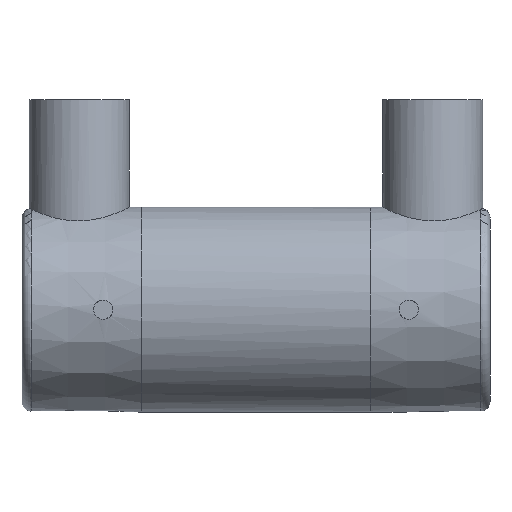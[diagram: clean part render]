
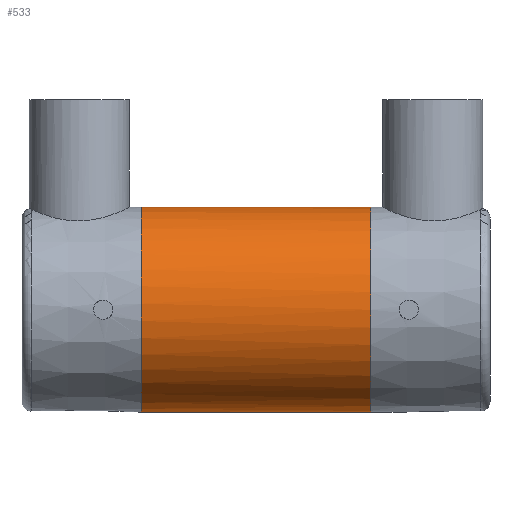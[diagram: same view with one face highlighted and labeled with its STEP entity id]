
A CAD part, front view. The second image highlights one B-rep face of the part: STEP entity #533.
In plain terms, the highlighted cylindrical face has radius 21.5 mm (diameter 43 mm), a full revolution.
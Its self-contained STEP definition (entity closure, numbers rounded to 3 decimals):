
#24=B_SPLINE_CURVE_WITH_KNOTS('',3,(#939,#940,#941,#942,#943,#944,#945,
#946,#947,#948,#949,#950,#951,#952,#953,#954,#955,#956,#957,#958,#959,#960,
#961,#962,#963,#964,#965,#966,#967,#968,#969,#970,#971),.UNSPECIFIED.,.T.,
 .F.,(1,1,1,1,1,1,1,1,1,1,1,1,1,1,1,1,1,1,1,1,1,1,1,1,1,1,1,1,1,1,1,1,1,
1,1,1,1),(-0.01,-0.007,-0.003,
0.,0.003,0.007,0.01,
0.014,0.017,0.021,0.024,
0.028,0.031,0.034,0.038,
0.041,0.045,0.048,0.055,
0.059,0.062,0.069,0.072,
0.076,0.079,0.083,0.086,
0.09,0.093,0.096,0.1,
0.103,0.107,0.11,0.114,
0.117,0.121),.UNSPECIFIED.);
#42=CYLINDRICAL_SURFACE('',#608,21.5);
#64=CIRCLE('',#603,21.5);
#68=CIRCLE('',#609,21.5);
#146=ORIENTED_EDGE('',*,*,#225,.F.);
#147=ORIENTED_EDGE('',*,*,#231,.T.);
#148=ORIENTED_EDGE('',*,*,#224,.F.);
#224=EDGE_CURVE('',#277,#277,#24,.T.);
#225=EDGE_CURVE('',#278,#278,#64,.T.);
#231=EDGE_CURVE('',#284,#284,#68,.T.);
#277=VERTEX_POINT('',#972);
#278=VERTEX_POINT('',#975);
#284=VERTEX_POINT('',#989);
#384=EDGE_LOOP('',(#146));
#385=EDGE_LOOP('',(#147));
#386=EDGE_LOOP('',(#148));
#458=FACE_BOUND('',#384,.T.);
#459=FACE_BOUND('',#385,.T.);
#460=FACE_BOUND('',#386,.T.);
#533=ADVANCED_FACE('',(#458,#459,#460),#42,.T.);
#603=AXIS2_PLACEMENT_3D('',#974,#726,#727);
#608=AXIS2_PLACEMENT_3D('',#987,#738,#739);
#609=AXIS2_PLACEMENT_3D('',#988,#740,#741);
#726=DIRECTION('',(-1.,0.,0.));
#727=DIRECTION('',(0.,0.,1.));
#738=DIRECTION('',(-1.,0.,0.));
#739=DIRECTION('',(0.,0.,1.));
#740=DIRECTION('',(-1.,0.,0.));
#741=DIRECTION('',(0.,0.,1.));
#939=CARTESIAN_POINT('',(16.508,21.311,3.47));
#940=CARTESIAN_POINT('',(16.87,21.594,-0.004));
#941=CARTESIAN_POINT('',(16.51,21.312,-3.453));
#942=CARTESIAN_POINT('',(15.472,20.514,-6.702));
#943=CARTESIAN_POINT('',(13.872,19.329,-9.568));
#944=CARTESIAN_POINT('',(11.834,17.911,-11.993));
#945=CARTESIAN_POINT('',(9.399,16.388,-13.981));
#946=CARTESIAN_POINT('',(6.646,14.952,-15.486));
#947=CARTESIAN_POINT('',(3.492,13.798,-16.5));
#948=CARTESIAN_POINT('',(0.031,13.323,-16.872));
#949=CARTESIAN_POINT('',(-3.436,13.783,-16.512));
#950=CARTESIAN_POINT('',(-6.603,14.933,-15.504));
#951=CARTESIAN_POINT('',(-9.362,16.366,-14.006));
#952=CARTESIAN_POINT('',(-11.806,17.892,-12.02));
#953=CARTESIAN_POINT('',(-13.842,19.307,-9.61));
#954=CARTESIAN_POINT('',(-15.992,20.9,-5.793));
#955=CARTESIAN_POINT('',(-16.99,21.689,-1.226));
#956=CARTESIAN_POINT('',(-16.52,21.32,3.414));
#957=CARTESIAN_POINT('',(-15.139,20.26,7.755));
#958=CARTESIAN_POINT('',(-12.659,18.429,11.315));
#959=CARTESIAN_POINT('',(-9.414,16.396,13.971));
#960=CARTESIAN_POINT('',(-6.659,14.958,15.48));
#961=CARTESIAN_POINT('',(-3.501,13.8,16.498));
#962=CARTESIAN_POINT('',(-0.033,13.323,16.872));
#963=CARTESIAN_POINT('',(3.439,13.783,16.512));
#964=CARTESIAN_POINT('',(6.611,14.936,15.501));
#965=CARTESIAN_POINT('',(9.373,16.372,13.999));
#966=CARTESIAN_POINT('',(11.819,17.901,12.007));
#967=CARTESIAN_POINT('',(13.856,19.317,9.591));
#968=CARTESIAN_POINT('',(15.464,20.508,6.721));
#969=CARTESIAN_POINT('',(16.508,21.311,3.47));
#970=CARTESIAN_POINT('',(16.87,21.594,-0.004));
#971=CARTESIAN_POINT('',(16.51,21.312,-3.453));
#972=CARTESIAN_POINT('',(16.75,21.5,0.));
#974=CARTESIAN_POINT('',(-24.,0.,0.));
#975=CARTESIAN_POINT('',(-24.,0.,21.5));
#987=CARTESIAN_POINT('',(-60.,0.,0.));
#988=CARTESIAN_POINT('',(24.,0.,0.));
#989=CARTESIAN_POINT('',(24.,0.,21.5));
